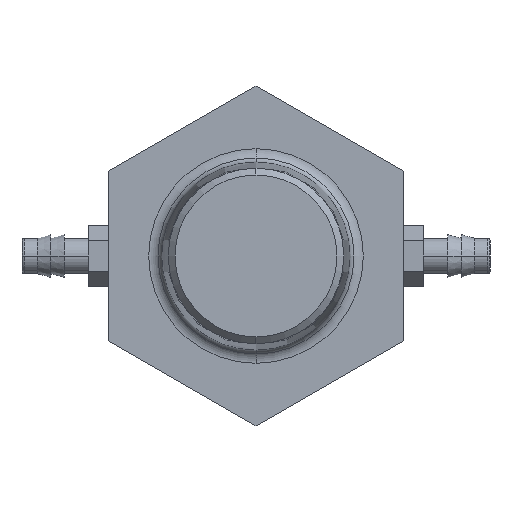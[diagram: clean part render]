
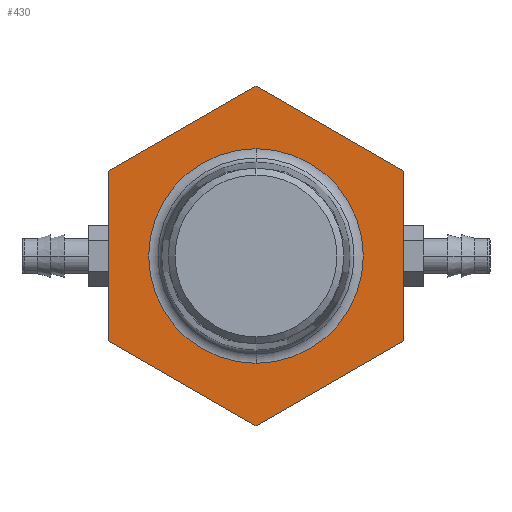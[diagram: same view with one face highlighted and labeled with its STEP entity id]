
A CAD part, left-side view. The second image highlights one B-rep face of the part: STEP entity #430.
In plain terms, the highlighted planar face has unit normal (-1, 0, 0).
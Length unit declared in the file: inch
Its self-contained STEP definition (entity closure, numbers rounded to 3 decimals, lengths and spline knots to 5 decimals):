
#203=DIRECTION('',(0.,0.866,-0.5));
#204=VECTOR('',#203,0.79386);
#205=CARTESIAN_POINT('',(-3.25,0.,0.79386));
#206=LINE('',#205,#204);
#207=DIRECTION('',(0.,0.866,0.5));
#208=VECTOR('',#207,0.79386);
#209=CARTESIAN_POINT('',(-3.25,-0.6875,0.39693));
#210=LINE('',#209,#208);
#211=DIRECTION('',(0.,0.,1.));
#212=VECTOR('',#211,0.79386);
#213=CARTESIAN_POINT('',(-3.25,-0.6875,-0.39693));
#214=LINE('',#213,#212);
#215=DIRECTION('',(0.,-0.866,0.5));
#216=VECTOR('',#215,0.79386);
#217=CARTESIAN_POINT('',(-3.25,0.,-0.79386));
#218=LINE('',#217,#216);
#219=DIRECTION('',(0.,-0.866,-0.5));
#220=VECTOR('',#219,0.79386);
#221=CARTESIAN_POINT('',(-3.25,0.6875,-0.39693));
#222=LINE('',#221,#220);
#223=DIRECTION('',(0.,0.,-1.));
#224=VECTOR('',#223,0.79386);
#225=CARTESIAN_POINT('',(-3.25,0.6875,0.39693));
#226=LINE('',#225,#224);
#227=CARTESIAN_POINT('',(-3.25,0.,0.));
#228=DIRECTION('',(1.,0.,0.));
#229=DIRECTION('',(0.,0.,1.));
#230=AXIS2_PLACEMENT_3D('',#227,#228,#229);
#232=CARTESIAN_POINT('',(-3.25,0.,0.));
#233=DIRECTION('',(1.,0.,0.));
#234=DIRECTION('',(0.,0.,-1.));
#235=AXIS2_PLACEMENT_3D('',#232,#233,#234);
#361=CARTESIAN_POINT('',(-3.25,0.,0.79386));
#362=CARTESIAN_POINT('',(-3.25,0.6875,0.39693));
#363=VERTEX_POINT('',#361);
#364=VERTEX_POINT('',#362);
#369=CARTESIAN_POINT('',(-3.25,0.6875,-0.39693));
#370=VERTEX_POINT('',#369);
#371=CARTESIAN_POINT('',(-3.25,-0.6875,0.39693));
#372=VERTEX_POINT('',#371);
#375=CARTESIAN_POINT('',(-3.25,0.,-0.79386));
#376=VERTEX_POINT('',#375);
#377=CARTESIAN_POINT('',(-3.25,-0.6875,-0.39693));
#378=VERTEX_POINT('',#377);
#393=CARTESIAN_POINT('',(-3.25,0.,0.50146));
#394=VERTEX_POINT('',#393);
#395=CARTESIAN_POINT('',(-3.25,0.,-0.50146));
#396=VERTEX_POINT('',#395);
#405=CARTESIAN_POINT('',(-3.25,0.,0.));
#406=DIRECTION('',(-1.,0.,0.));
#407=DIRECTION('',(0.,0.,1.));
#408=AXIS2_PLACEMENT_3D('',#405,#406,#407);
#409=PLANE('',#408);
#411=ORIENTED_EDGE('',*,*,#410,.F.);
#413=ORIENTED_EDGE('',*,*,#412,.F.);
#415=ORIENTED_EDGE('',*,*,#414,.F.);
#417=ORIENTED_EDGE('',*,*,#416,.F.);
#419=ORIENTED_EDGE('',*,*,#418,.F.);
#421=ORIENTED_EDGE('',*,*,#420,.F.);
#422=EDGE_LOOP('',(#411,#413,#415,#417,#419,#421));
#423=FACE_OUTER_BOUND('',#422,.F.);
#425=ORIENTED_EDGE('',*,*,#424,.F.);
#427=ORIENTED_EDGE('',*,*,#426,.F.);
#428=EDGE_LOOP('',(#425,#427));
#429=FACE_BOUND('',#428,.F.);
#231=CIRCLE('',#230,0.50146);
#236=CIRCLE('',#235,0.50146);
#410=EDGE_CURVE('',#363,#364,#206,.T.);
#412=EDGE_CURVE('',#372,#363,#210,.T.);
#414=EDGE_CURVE('',#378,#372,#214,.T.);
#416=EDGE_CURVE('',#376,#378,#218,.T.);
#418=EDGE_CURVE('',#370,#376,#222,.T.);
#420=EDGE_CURVE('',#364,#370,#226,.T.);
#424=EDGE_CURVE('',#394,#396,#231,.T.);
#426=EDGE_CURVE('',#396,#394,#236,.T.);
#430=ADVANCED_FACE('',(#423,#429),#409,.T.);
